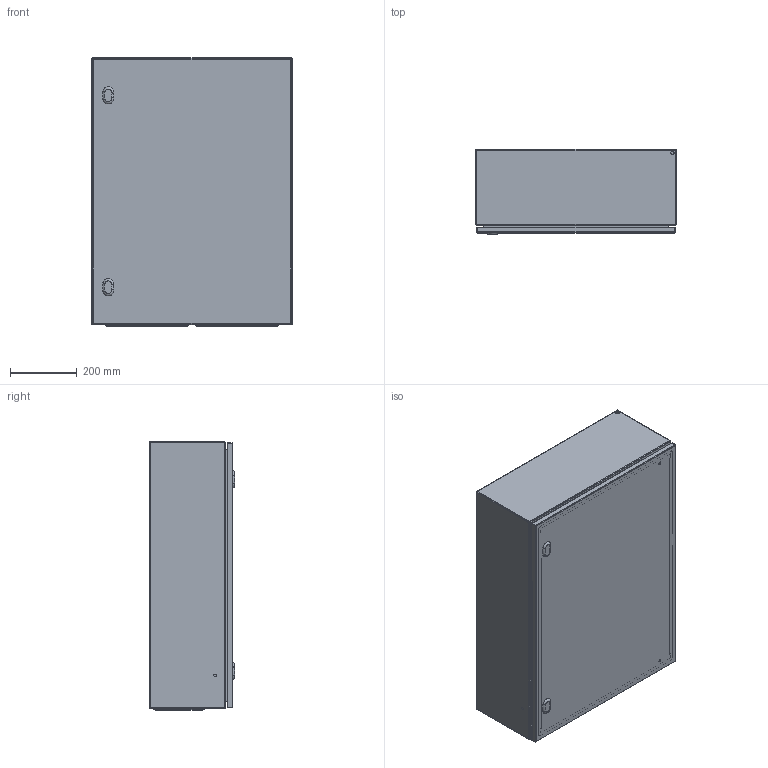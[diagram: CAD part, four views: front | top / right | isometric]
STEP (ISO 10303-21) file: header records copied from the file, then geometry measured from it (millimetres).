
FILE_DESCRIPTION(/* description */ ('STEP AP214'),/* implementation_level */ '2;1');
FILE_NAME(/* name */ 'EC060825-LOD400',/* time_stamp */ '2025-07-31T14:54:14+02:00',/* author */ ('License CC BY-ND 4.0'),/* organization */ ('CADENAS'),/* preprocessor_version */ 'ST-DEVELOPER v19.3',/* originating_system */ 'PARTsolutions',/* authorisation */ ' ');
FILE_SCHEMA (('AUTOMOTIVE_DESIGN {1 0 10303 214 3 1 1}'));
Length unit declared in the file: millimetre
Products named in the file (5): EC060825-LOD400; EC060825-LOD400_cabinet; EC060825-LOD400_door; EC060825-LOD400_bottom_plate; EC060825-LOD400_inner_plate
Assembly tree (5 placements, depth 2):
  EC060825-LOD400
    EC060825-LOD400_cabinet
    EC060825-LOD400_door
    EC060825-LOD400_bottom_plate  x2
    EC060825-LOD400_inner_plate
Bounding box: 600 x 255 x 804 mm (x, y, z)
Volume: 3774890.5 mm3; surface area: 4492424.4 mm2
Topology: 5 solids, 5 shells, 706 faces, 1696 edges, 1094 vertices
Faces by surface type: cylinder 284, plane 264, torus 80, cone 78
Full cylindrical faces by diameter (mm): 1 x64, 4.5 x62, 5 x4, 5.5 x4, 6 x4, 7 x4, 8 x12, 10 x10, 14 x4
Entity records: 15443 total; most frequent: DIRECTION 2812, CARTESIAN_POINT 2496, ORIENTED_EDGE 2236, AXIS2_PLACEMENT_3D 1146, EDGE_CURVE 1118, EDGE_LOOP 976, FACE_BOUND 976, VERTEX_POINT 830
